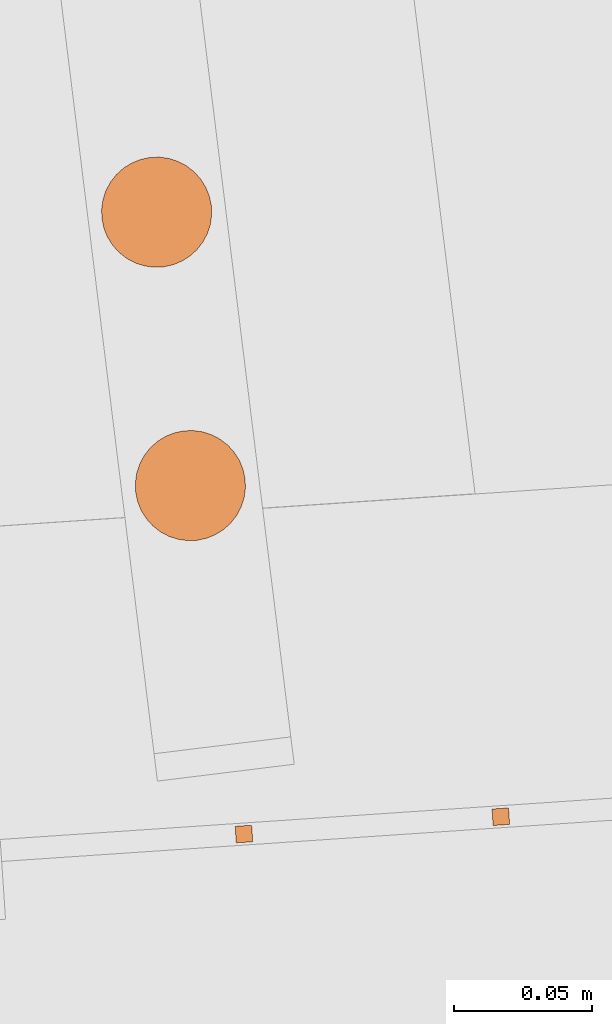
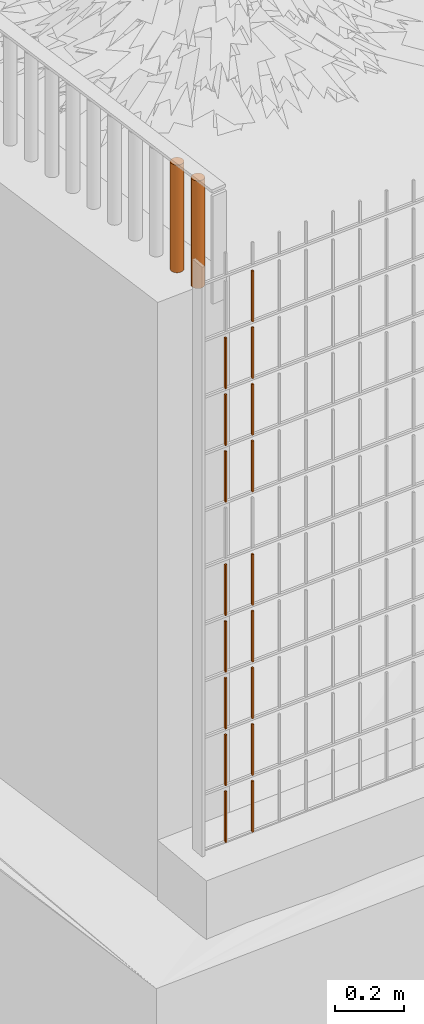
# One storey, part 52 of 1809: 19 proxies, 2 elements without a shape of their own.
"""IFC2X3 building model written with IfcOpenShell, lengths in millimetres."""

from ifc_helpers import new_model, entity, si_unit, converted_unit, derived_unit, money_unit, direction, frame, origin_with_axes, place, context, subcontext, project, spatial, faceted_brep, source, transform, mapped, material, type_object, element, aggregate, save


model = new_model("IFC2X3")

# Units and contexts
model_context = context("Model", 3, precision=0.01, world=origin_with_axes(), true_north=direction((0.0, 1.0)))
body_context = subcontext(model_context, "Body", "Model", "MODEL_VIEW")
ifc_project = project(units=[si_unit("LENGTHUNIT", "METRE", prefix="MILLI"), si_unit("AREAUNIT", "SQUARE_METRE"), si_unit("VOLUMEUNIT", "CUBIC_METRE"), converted_unit("PLANEANGLEUNIT", "DEGREE", entity("IfcPlaneAngleMeasure", 0.0174532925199), si_unit("PLANEANGLEUNIT", "RADIAN"), dimensions=[0, 0, 0, 0, 0, 0, 0]), si_unit("SOLIDANGLEUNIT", "STERADIAN"), money_unit("EUR"), converted_unit("TIMEUNIT", "Year", entity("IfcTimeMeasure", 31556926.0), si_unit("TIMEUNIT", "SECOND"), dimensions=[0, 0, 1, 0, 0, 0, 0]), si_unit("MASSUNIT", "GRAM", prefix="KILO"), si_unit("THERMODYNAMICTEMPERATUREUNIT", "DEGREE_CELSIUS"), si_unit("LUMINOUSINTENSITYUNIT", "LUMEN"), si_unit("ENERGYUNIT", "JOULE", prefix="MEGA"), derived_unit("THERMALCONDUCTANCEUNIT", [(si_unit("POWERUNIT", "WATT"), 1), (si_unit("LENGTHUNIT", "METRE"), -1), (si_unit("THERMODYNAMICTEMPERATUREUNIT", "KELVIN"), -1)]), derived_unit("SPECIFICHEATCAPACITYUNIT", [(si_unit("ENERGYUNIT", "JOULE"), 1), (si_unit("MASSUNIT", "GRAM", prefix="KILO"), -1), (si_unit("THERMODYNAMICTEMPERATUREUNIT", "KELVIN"), -1)]), derived_unit("MASSDENSITYUNIT", [(si_unit("MASSUNIT", "GRAM", prefix="KILO"), 1), (si_unit("VOLUMEUNIT", "CUBIC_METRE"), -1)])], contexts=[model_context])

# Site, building, storey
site_placement = place(None, origin_with_axes())
site = spatial("IfcSite", under=ifc_project, at=site_placement, Name="Politse- ja Piirivalveameti ning Päästeameti ühishoone", CompositionType="ELEMENT")
building_placement = place(site_placement, origin_with_axes())
building = spatial("IfcBuilding", under=site, at=building_placement, Name="Politse- ja Piirivalveameti ning Päästeameti ühishoone", CompositionType="ELEMENT")
storey_placement = place(building_placement, origin_with_axes())
storey = spatial("IfcBuildingStorey", under=building, at=storey_placement, Name="Esimene korrus", CompositionType="ELEMENT", Elevation=0.0)

# Proxies
building_element_proxy_type_1 = type_object("IfcBuildingElementProxyType", Name="Railing Type", PredefinedType="NOTDEFINED")
proxy_1_placement = place(storey_placement, frame((89252.001212, -29183.4766571, 203.661247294), z_axis=(0.0, 0.0, 1.0), x_axis=(1.0, 0.0, 0.0)))
proxy_1 = element("IfcBuildingElementProxy", 1, at=proxy_1_placement, inside=storey, type_object=building_element_proxy_type_1, Name="PIIRDEAED")
ifc_material_1 = material(Name="ET-03_Raud")
building_element_proxy_type_2 = type_object("IfcBuildingElementProxyType", Name="IfcBuildingElementProxy", PredefinedType="NOTDEFINED")
shared_shape_1 = source(origin_with_axes(), body_context, "Body", "Brep", [
    faceted_brep([(3.0, 3.0, -0.000752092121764), (-3.0, 3.0, -0.000752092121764), (-3.0, 3.0, 179.99926046), (3.0, 3.0, 179.99926046), (3.0, -3.0, 0.000752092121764), (-3.0, -3.0, 0.000752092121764), (-3.0, -3.0, 180.000764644), (3.0, -3.0, 180.000764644)], [[[0, 1, 2, 3]], [[0, 4, 5, 1]], [[1, 5, 6, 2]], [[3, 2, 6, 7]], [[4, 0, 3, 7]], [[5, 4, 7, 6]]]),
])
proxy_2_placement = place(proxy_1_placement, frame((-108294.372437, -24612.6509315, 1200.02340739), z_axis=(0.0, 0.0, 1.0), x_axis=(1.0, 0.0, 0.0)))
proxy_2 = element("IfcBuildingElementProxy", 2, at=proxy_2_placement, type_object=building_element_proxy_type_2, material=ifc_material_1, Name="BALUSTER - 001", context=body_context, shape_type="MappedRepresentation", body=[
    mapped(shared_shape_1, transform((0.0, 0.0, 0.0), x_axis=(-0.0673926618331, 0.997726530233, 0.0), y_axis=(-0.997726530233, -0.0673926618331, 0.0), z_axis=(0.0, 0.0, 1.0))),
])
shared_shape_2 = source(origin_with_axes(), body_context, "Body", "Brep", [
    faceted_brep([(3.0, 3.0, -0.000752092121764), (-3.0, 3.0, -0.000752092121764), (-3.0, 3.0, 179.99926046), (3.0, 3.0, 179.99926046), (3.0, -3.0, 0.000752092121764), (-3.0, -3.0, 0.000752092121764), (-3.0, -3.0, 180.000764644), (3.0, -3.0, 180.000764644)], [[[0, 1, 2, 3]], [[0, 4, 5, 1]], [[1, 5, 6, 2]], [[3, 2, 6, 7]], [[4, 0, 3, 7]], [[5, 4, 7, 6]]]),
])
proxy_3_placement = place(proxy_1_placement, frame((-108201.165633, -24606.3551637, 200.046827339), z_axis=(0.0, 0.0, 1.0), x_axis=(1.0, 0.0, 0.0)))
proxy_3 = element("IfcBuildingElementProxy", 3, at=proxy_3_placement, type_object=building_element_proxy_type_2, material=ifc_material_1, Name="BALUSTER - 001", context=body_context, shape_type="MappedRepresentation", body=[
    mapped(shared_shape_2, transform((0.0, 0.0, 0.0), x_axis=(-0.0673926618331, 0.997726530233, 0.0), y_axis=(-0.997726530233, -0.0673926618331, 0.0), z_axis=(0.0, 0.0, 1.0))),
])
shared_shape_3 = source(origin_with_axes(), body_context, "Body", "Brep", [
    faceted_brep([(3.0, 3.0, -0.000752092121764), (-3.0, 3.0, -0.000752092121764), (-3.0, 3.0, 179.99926046), (3.0, 3.0, 179.99926046), (3.0, -3.0, 0.000752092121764), (-3.0, -3.0, 0.000752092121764), (-3.0, -3.0, 180.000764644), (3.0, -3.0, 180.000764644)], [[[0, 1, 2, 3]], [[0, 4, 5, 1]], [[1, 5, 6, 2]], [[3, 2, 6, 7]], [[4, 0, 3, 7]], [[5, 4, 7, 6]]]),
])
proxy_4_placement = place(proxy_1_placement, frame((-108294.372437, -24612.6509315, 400.023407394), z_axis=(0.0, 0.0, 1.0), x_axis=(1.0, 0.0, 0.0)))
proxy_4 = element("IfcBuildingElementProxy", 4, at=proxy_4_placement, type_object=building_element_proxy_type_2, material=ifc_material_1, Name="BALUSTER - 001", context=body_context, shape_type="MappedRepresentation", body=[
    mapped(shared_shape_3, transform((0.0, 0.0, 0.0), x_axis=(-0.0673926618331, 0.997726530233, 0.0), y_axis=(-0.997726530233, -0.0673926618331, 0.0), z_axis=(0.0, 0.0, 1.0))),
])
shared_shape_4 = source(origin_with_axes(), body_context, "Body", "Brep", [
    faceted_brep([(3.0, 3.0, -0.000752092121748), (-3.0, 3.0, -0.00075209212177), (-3.0, 3.0, 179.99926046), (3.0, 3.0, 179.99926046), (3.0, -3.0, 0.00075209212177), (-3.0, -3.0, 0.000752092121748), (-3.0, -3.0, 180.000764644), (3.0, -3.0, 180.000764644)], [[[0, 1, 2, 3]], [[0, 4, 5, 1]], [[1, 5, 6, 2]], [[3, 2, 6, 7]], [[4, 0, 3, 7]], [[5, 4, 7, 6]]]),
])
proxy_5_placement = place(proxy_1_placement, frame((-108201.165633, -24606.3551637, 600.046827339), z_axis=(0.0, 0.0, 1.0), x_axis=(1.0, 0.0, 0.0)))
proxy_5 = element("IfcBuildingElementProxy", 5, at=proxy_5_placement, type_object=building_element_proxy_type_2, material=ifc_material_1, Name="BALUSTER - 001", context=body_context, shape_type="MappedRepresentation", body=[
    mapped(shared_shape_4, transform((0.0, 0.0, 0.0), x_axis=(-0.0673926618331, 0.997726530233, 0.0), y_axis=(-0.997726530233, -0.0673926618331, 0.0), z_axis=(0.0, 0.0, 1.0))),
])
proxy_6_placement = place(proxy_1_placement, frame((-108294.372437, -24612.6509315, 600.023407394), z_axis=(0.0, 0.0, 1.0), x_axis=(1.0, 0.0, 0.0)))
proxy_6 = element("IfcBuildingElementProxy", 6, at=proxy_6_placement, type_object=building_element_proxy_type_2, material=ifc_material_1, Name="BALUSTER - 001", context=body_context, shape_type="MappedRepresentation", body=[
    mapped(shared_shape_4, transform((0.0, 0.0, 0.0), x_axis=(-0.0673926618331, 0.997726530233, 0.0), y_axis=(-0.997726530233, -0.0673926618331, 0.0), z_axis=(0.0, 0.0, 1.0))),
])
shared_shape_5 = source(origin_with_axes(), body_context, "Body", "Brep", [
    faceted_brep([(3.0, 3.0, -0.000752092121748), (-3.0, 3.0, -0.00075209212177), (-3.0, 3.0, 179.99926046), (3.0, 3.0, 179.99926046), (3.0, -3.0, 0.00075209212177), (-3.0, -3.0, 0.000752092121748), (-3.0, -3.0, 180.000764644), (3.0, -3.0, 180.000764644)], [[[0, 1, 2, 3]], [[0, 4, 5, 1]], [[1, 5, 6, 2]], [[3, 2, 6, 7]], [[4, 0, 3, 7]], [[5, 4, 7, 6]]]),
])
proxy_7_placement = place(proxy_1_placement, frame((-108201.165633, -24606.3551637, 800.046827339), z_axis=(0.0, 0.0, 1.0), x_axis=(1.0, 0.0, 0.0)))
proxy_7 = element("IfcBuildingElementProxy", 7, at=proxy_7_placement, type_object=building_element_proxy_type_2, material=ifc_material_1, Name="BALUSTER - 001", context=body_context, shape_type="MappedRepresentation", body=[
    mapped(shared_shape_5, transform((0.0, 0.0, 0.0), x_axis=(-0.0673926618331, 0.997726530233, 0.0), y_axis=(-0.997726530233, -0.0673926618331, 0.0), z_axis=(0.0, 0.0, 1.0))),
])
proxy_8_placement = place(proxy_1_placement, frame((-108201.165633, -24606.3551637, 1800.04682734), z_axis=(0.0, 0.0, 1.0), x_axis=(1.0, 0.0, 0.0)))
proxy_8 = element("IfcBuildingElementProxy", 8, at=proxy_8_placement, type_object=building_element_proxy_type_2, material=ifc_material_1, Name="BALUSTER - 001", context=body_context, shape_type="MappedRepresentation", body=[
    mapped(shared_shape_5, transform((0.0, 0.0, 0.0), x_axis=(-0.0673926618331, 0.997726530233, 0.0), y_axis=(-0.997726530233, -0.0673926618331, 0.0), z_axis=(0.0, 0.0, 1.0))),
])
shared_shape_6 = source(origin_with_axes(), body_context, "Body", "Brep", [
    faceted_brep([(3.0, 3.0, -0.000752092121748), (-3.0, 3.0, -0.00075209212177), (-3.0, 3.0, 179.99926046), (3.0, 3.0, 179.99926046), (3.0, -3.0, 0.00075209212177), (-3.0, -3.0, 0.000752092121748), (-3.0, -3.0, 180.000764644), (3.0, -3.0, 180.000764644)], [[[0, 1, 2, 3]], [[0, 4, 5, 1]], [[1, 5, 6, 2]], [[3, 2, 6, 7]], [[4, 0, 3, 7]], [[5, 4, 7, 6]]]),
])
proxy_9_placement = place(proxy_1_placement, frame((-108294.372437, -24612.6509315, 800.023407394), z_axis=(0.0, 0.0, 1.0), x_axis=(1.0, 0.0, 0.0)))
proxy_9 = element("IfcBuildingElementProxy", 9, at=proxy_9_placement, type_object=building_element_proxy_type_2, material=ifc_material_1, Name="BALUSTER - 001", context=body_context, shape_type="MappedRepresentation", body=[
    mapped(shared_shape_6, transform((0.0, 0.0, 0.0), x_axis=(-0.0673926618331, 0.997726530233, 0.0), y_axis=(-0.997726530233, -0.0673926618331, 0.0), z_axis=(0.0, 0.0, 1.0))),
])
shared_shape_7 = source(origin_with_axes(), body_context, "Body", "Brep", [
    faceted_brep([(3.0, 3.0, -0.000752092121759), (-3.0, 3.0, -0.000752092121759), (-3.0, 3.0, 179.99926046), (3.0, 3.0, 179.99926046), (3.0, -3.0, 0.000752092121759), (-3.0, -3.0, 0.000752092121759), (-3.0, -3.0, 180.000764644), (3.0, -3.0, 180.000764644)], [[[0, 1, 2, 3]], [[0, 4, 5, 1]], [[1, 5, 6, 2]], [[3, 2, 6, 7]], [[4, 0, 3, 7]], [[5, 4, 7, 6]]]),
])
proxy_10_placement = place(proxy_1_placement, frame((-108201.165633, -24606.3551637, 1200.04682734), z_axis=(0.0, 0.0, 1.0), x_axis=(1.0, 0.0, 0.0)))
proxy_10 = element("IfcBuildingElementProxy", 10, at=proxy_10_placement, type_object=building_element_proxy_type_2, material=ifc_material_1, Name="BALUSTER - 001", context=body_context, shape_type="MappedRepresentation", body=[
    mapped(shared_shape_7, transform((0.0, 0.0, 0.0), x_axis=(-0.0673926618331, 0.997726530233, 0.0), y_axis=(-0.997726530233, -0.0673926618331, 0.0), z_axis=(0.0, 0.0, 1.0))),
])
shared_shape_8 = source(origin_with_axes(), body_context, "Body", "Brep", [
    faceted_brep([(3.0, 3.0, -0.000752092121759), (-3.0, 3.0, -0.000752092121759), (-3.0, 3.0, 179.99926046), (3.0, 3.0, 179.99926046), (3.0, -3.0, 0.000752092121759), (-3.0, -3.0, 0.000752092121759), (-3.0, -3.0, 180.000764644), (3.0, -3.0, 180.000764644)], [[[0, 1, 2, 3]], [[0, 4, 5, 1]], [[1, 5, 6, 2]], [[3, 2, 6, 7]], [[4, 0, 3, 7]], [[5, 4, 7, 6]]]),
])
proxy_11_placement = place(proxy_1_placement, frame((-108201.165633, -24606.3551637, 1400.04682734), z_axis=(0.0, 0.0, 1.0), x_axis=(1.0, 0.0, 0.0)))
proxy_11 = element("IfcBuildingElementProxy", 11, at=proxy_11_placement, type_object=building_element_proxy_type_2, material=ifc_material_1, Name="BALUSTER - 001", context=body_context, shape_type="MappedRepresentation", body=[
    mapped(shared_shape_8, transform((0.0, 0.0, 0.0), x_axis=(-0.0673926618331, 0.997726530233, 0.0), y_axis=(-0.997726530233, -0.0673926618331, 0.0), z_axis=(0.0, 0.0, 1.0))),
])
shared_shape_9 = source(origin_with_axes(), body_context, "Body", "Brep", [
    faceted_brep([(3.0, 3.0, -0.000752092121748), (-3.0, 3.0, -0.00075209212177), (-3.0, 3.0, 179.99926046), (3.0, 3.0, 179.99926046), (3.0, -3.0, 0.00075209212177), (-3.0, -3.0, 0.000752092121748), (-3.0, -3.0, 180.000764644), (3.0, -3.0, 180.000764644)], [[[0, 1, 2, 3]], [[0, 4, 5, 1]], [[1, 5, 6, 2]], [[3, 2, 6, 7]], [[4, 0, 3, 7]], [[5, 4, 7, 6]]]),
])
proxy_12_placement = place(proxy_1_placement, frame((-108201.165633, -24606.3551637, 1600.04682734), z_axis=(0.0, 0.0, 1.0), x_axis=(1.0, 0.0, 0.0)))
proxy_12 = element("IfcBuildingElementProxy", 12, at=proxy_12_placement, type_object=building_element_proxy_type_2, material=ifc_material_1, Name="BALUSTER - 001", context=body_context, shape_type="MappedRepresentation", body=[
    mapped(shared_shape_9, transform((0.0, 0.0, 0.0), x_axis=(-0.0673926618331, 0.997726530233, 0.0), y_axis=(-0.997726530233, -0.0673926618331, 0.0), z_axis=(0.0, 0.0, 1.0))),
])
shared_shape_10 = source(origin_with_axes(), body_context, "Body", "Brep", [
    faceted_brep([(3.0, 3.0, -0.000752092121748), (-3.0, 3.0, -0.00075209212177), (-3.0, 3.0, 179.99926046), (3.0, 3.0, 179.99926046), (3.0, -3.0, 0.00075209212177), (-3.0, -3.0, 0.000752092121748), (-3.0, -3.0, 180.000764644), (3.0, -3.0, 180.000764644)], [[[0, 1, 2, 3]], [[0, 4, 5, 1]], [[1, 5, 6, 2]], [[3, 2, 6, 7]], [[4, 0, 3, 7]], [[5, 4, 7, 6]]]),
])
proxy_13_placement = place(proxy_1_placement, frame((-108294.372437, -24612.6509315, 1400.02340739), z_axis=(0.0, 0.0, 1.0), x_axis=(1.0, 0.0, 0.0)))
proxy_13 = element("IfcBuildingElementProxy", 13, at=proxy_13_placement, type_object=building_element_proxy_type_2, material=ifc_material_1, Name="BALUSTER - 001", context=body_context, shape_type="MappedRepresentation", body=[
    mapped(shared_shape_10, transform((0.0, 0.0, 0.0), x_axis=(-0.0673926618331, 0.997726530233, 0.0), y_axis=(-0.997726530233, -0.0673926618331, 0.0), z_axis=(0.0, 0.0, 1.0))),
])
shared_shape_11 = source(origin_with_axes(), body_context, "Body", "Brep", [
    faceted_brep([(3.0, 3.0, -0.000752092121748), (-3.0, 3.0, -0.00075209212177), (-3.0, 3.0, 179.99926046), (3.0, 3.0, 179.99926046), (3.0, -3.0, 0.00075209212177), (-3.0, -3.0, 0.000752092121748), (-3.0, -3.0, 180.000764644), (3.0, -3.0, 180.000764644)], [[[0, 1, 2, 3]], [[0, 4, 5, 1]], [[1, 5, 6, 2]], [[3, 2, 6, 7]], [[4, 0, 3, 7]], [[5, 4, 7, 6]]]),
])
proxy_14_placement = place(proxy_1_placement, frame((-108294.372437, -24612.6509315, 0.0234073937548), z_axis=(0.0, 0.0, 1.0), x_axis=(1.0, 0.0, 0.0)))
proxy_14 = element("IfcBuildingElementProxy", 14, at=proxy_14_placement, type_object=building_element_proxy_type_2, material=ifc_material_1, Name="BALUSTER - 001", context=body_context, shape_type="MappedRepresentation", body=[
    mapped(shared_shape_11, transform((0.0, 0.0, 0.0), x_axis=(-0.0673926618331, 0.997726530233, 0.0), y_axis=(-0.997726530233, -0.0673926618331, 0.0), z_axis=(0.0, 0.0, 1.0))),
])
shared_shape_12 = source(origin_with_axes(), body_context, "Body", "Brep", [
    faceted_brep([(3.0, 3.0, -0.000752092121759), (-3.0, 3.0, -0.000752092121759), (-3.0, 3.0, 179.99926046), (3.0, 3.0, 179.99926046), (3.0, -3.0, 0.000752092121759), (-3.0, -3.0, 0.000752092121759), (-3.0, -3.0, 180.000764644), (3.0, -3.0, 180.000764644)], [[[0, 1, 2, 3]], [[0, 4, 5, 1]], [[1, 5, 6, 2]], [[3, 2, 6, 7]], [[4, 0, 3, 7]], [[5, 4, 7, 6]]]),
])
proxy_15_placement = place(proxy_1_placement, frame((-108201.165633, -24606.3551637, 400.046827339), z_axis=(0.0, 0.0, 1.0), x_axis=(1.0, 0.0, 0.0)))
proxy_15 = element("IfcBuildingElementProxy", 15, at=proxy_15_placement, type_object=building_element_proxy_type_2, material=ifc_material_1, Name="BALUSTER - 001", context=body_context, shape_type="MappedRepresentation", body=[
    mapped(shared_shape_12, transform((0.0, 0.0, 0.0), x_axis=(-0.0673926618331, 0.997726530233, 0.0), y_axis=(-0.997726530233, -0.0673926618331, 0.0), z_axis=(0.0, 0.0, 1.0))),
])
shared_shape_13 = source(origin_with_axes(), body_context, "Body", "Brep", [
    faceted_brep([(3.0, 3.0, -0.000752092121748), (-3.0, 3.0, -0.00075209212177), (-3.0, 3.0, 179.99926046), (3.0, 3.0, 179.99926046), (3.0, -3.0, 0.00075209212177), (-3.0, -3.0, 0.000752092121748), (-3.0, -3.0, 180.000764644), (3.0, -3.0, 180.000764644)], [[[0, 1, 2, 3]], [[0, 4, 5, 1]], [[1, 5, 6, 2]], [[3, 2, 6, 7]], [[4, 0, 3, 7]], [[5, 4, 7, 6]]]),
])
proxy_16_placement = place(proxy_1_placement, frame((-108294.372437, -24612.6509315, 200.023407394), z_axis=(0.0, 0.0, 1.0), x_axis=(1.0, 0.0, 0.0)))
proxy_16 = element("IfcBuildingElementProxy", 16, at=proxy_16_placement, type_object=building_element_proxy_type_2, material=ifc_material_1, Name="BALUSTER - 001", context=body_context, shape_type="MappedRepresentation", body=[
    mapped(shared_shape_13, transform((0.0, 0.0, 0.0), x_axis=(-0.0673926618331, 0.997726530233, 0.0), y_axis=(-0.997726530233, -0.0673926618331, 0.0), z_axis=(0.0, 0.0, 1.0))),
])
shared_shape_14 = source(origin_with_axes(), body_context, "Body", "Brep", [
    faceted_brep([(3.0, 3.0, -0.000752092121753), (-3.0, 3.0, -0.000752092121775), (-3.0, 3.0, 179.99926046), (3.0, 3.0, 179.99926046), (3.0, -3.0, 0.000752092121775), (-3.0, -3.0, 0.000752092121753), (-3.0, -3.0, 180.000764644), (3.0, -3.0, 180.000764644)], [[[0, 1, 2, 3]], [[0, 4, 5, 1]], [[1, 5, 6, 2]], [[3, 2, 6, 7]], [[4, 0, 3, 7]], [[5, 4, 7, 6]]]),
])
proxy_17_placement = place(proxy_1_placement, frame((-108294.372437, -24612.6509315, 1600.02340739), z_axis=(0.0, 0.0, 1.0), x_axis=(1.0, 0.0, 0.0)))
proxy_17 = element("IfcBuildingElementProxy", 17, at=proxy_17_placement, type_object=building_element_proxy_type_2, material=ifc_material_1, Name="BALUSTER - 001", context=body_context, shape_type="MappedRepresentation", body=[
    mapped(shared_shape_14, transform((0.0, 0.0, 0.0), x_axis=(-0.0673926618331, 0.997726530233, 0.0), y_axis=(-0.997726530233, -0.0673926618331, 0.0), z_axis=(0.0, 0.0, 1.0))),
])
shared_shape_15 = source(origin_with_axes(), body_context, "Body", "Brep", [
    faceted_brep([(3.0, 3.0, -0.000752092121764), (-3.0, 3.0, -0.000752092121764), (-3.0, 3.0, 179.99926046), (3.0, 3.0, 179.99926046), (3.0, -3.0, 0.000752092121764), (-3.0, -3.0, 0.000752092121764), (-3.0, -3.0, 180.000764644), (3.0, -3.0, 180.000764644)], [[[0, 1, 2, 3]], [[0, 4, 5, 1]], [[1, 5, 6, 2]], [[3, 2, 6, 7]], [[4, 0, 3, 7]], [[5, 4, 7, 6]]]),
])
proxy_18_placement = place(proxy_1_placement, frame((-108201.165633, -24606.3551637, 0.0468273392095), z_axis=(0.0, 0.0, 1.0), x_axis=(1.0, 0.0, 0.0)))
proxy_18 = element("IfcBuildingElementProxy", 18, at=proxy_18_placement, type_object=building_element_proxy_type_2, material=ifc_material_1, Name="BALUSTER - 001", context=body_context, shape_type="MappedRepresentation", body=[
    mapped(shared_shape_15, transform((0.0, 0.0, 0.0), x_axis=(-0.0673926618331, 0.997726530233, 0.0), y_axis=(-0.997726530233, -0.0673926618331, 0.0), z_axis=(0.0, 0.0, 1.0))),
])
aggregate(proxy_1, [proxy_18, proxy_14, proxy_3, proxy_16, proxy_15, proxy_4, proxy_5, proxy_6, proxy_7, proxy_9, proxy_10, proxy_2, proxy_11, proxy_13, proxy_12, proxy_17, proxy_8])

proxy_19_placement = place(storey_placement, frame((-18956.5522504, -53688.4757966, 2100.0), z_axis=(0.0, 0.0, 1.0), x_axis=(1.0, 0.0, 0.0)))
proxy_19 = element("IfcBuildingElementProxy", 19, at=proxy_19_placement, inside=storey, type_object=building_element_proxy_type_1, Name="PIIRDEAED")
ifc_material_2 = material(Name="ET-06_Teras - Konstruktsioon")
shared_shape_16 = source(origin_with_axes(), body_context, "Body", "Brep", [
    faceted_brep([(0.0, -20.0, 0.0), (3.47296355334, -19.6961550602, 0.0), (3.47296355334, -19.6961550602, 380.000012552), (0.0, -20.0, 380.000012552), (-3.47296355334, -19.6961550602, 0.0), (-6.84040286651, -18.7938524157, 0.0), (-10.0, -17.3205080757, 0.0), (-12.8557521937, -15.3208888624, 0.0), (-15.3208888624, -12.8557521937, 0.0), (-17.3205080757, -10.0, 0.0), (-18.7938524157, -6.84040286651, 0.0), (-19.6961550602, -3.47296355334, 0.0), (-20.0, 0.0, 0.0), (-19.6961550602, 3.47296355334, 0.0), (-18.7938524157, 6.84040286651, 0.0), (-17.3205080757, 10.0, 0.0), (-15.3208888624, 12.8557521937, 0.0), (-12.8557521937, 15.3208888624, 0.0), (-10.0, 17.3205080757, 0.0), (-6.84040286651, 18.7938524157, 0.0), (-3.47296355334, 19.6961550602, 0.0), (0.0, 20.0, 0.0), (3.47296355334, 19.6961550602, 0.0), (6.84040286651, 18.7938524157, 0.0), (10.0, 17.3205080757, 0.0), (12.8557521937, 15.3208888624, 0.0), (15.3208888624, 12.8557521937, 0.0), (17.3205080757, 10.0, 0.0), (18.7938524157, 6.84040286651, 0.0), (19.6961550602, 3.47296355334, 0.0), (20.0, 0.0, 0.0), (19.6961550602, -3.47296355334, 0.0), (18.7938524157, -6.84040286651, 0.0), (17.3205080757, -10.0, 0.0), (15.3208888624, -12.8557521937, 0.0), (12.8557521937, -15.3208888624, 0.0), (10.0, -17.3205080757, 0.0), (6.84040286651, -18.7938524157, 0.0), (6.84040286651, -18.7938524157, 380.000012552), (10.0, -17.3205080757, 380.000012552), (12.8557521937, -15.3208888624, 380.000012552), (15.3208888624, -12.8557521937, 380.000012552), (17.3205080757, -10.0, 380.000012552), (18.7938524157, -6.84040286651, 380.000012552), (19.6961550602, -3.47296355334, 380.000012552), (20.0, 0.0, 380.000012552), (19.6961550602, 3.47296355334, 380.000012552), (18.7938524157, 6.84040286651, 380.000012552), (17.3205080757, 10.0, 380.000012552), (15.3208888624, 12.8557521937, 380.000012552), (12.8557521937, 15.3208888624, 380.000012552), (10.0, 17.3205080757, 380.000012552), (6.84040286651, 18.7938524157, 380.000012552), (3.47296355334, 19.6961550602, 380.000012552), (0.0, 20.0, 380.000012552), (-3.47296355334, 19.6961550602, 380.000012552), (-6.84040286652, 18.7938524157, 380.000012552), (-10.0, 17.3205080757, 380.000012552), (-12.8557521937, 15.3208888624, 380.000012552), (-15.3208888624, 12.8557521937, 380.000012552), (-17.3205080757, 10.0, 380.000012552), (-18.7938524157, 6.84040286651, 380.000012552), (-19.6961550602, 3.47296355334, 380.000012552), (-20.0, 0.0, 380.000012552), (-19.6961550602, -3.47296355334, 380.000012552), (-18.7938524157, -6.84040286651, 380.000012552), (-17.3205080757, -10.0, 380.000012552), (-15.3208888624, -12.8557521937, 380.000012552), (-12.8557521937, -15.3208888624, 380.000012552), (-10.0, -17.3205080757, 380.000012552), (-6.84040286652, -18.7938524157, 380.000012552), (-3.47296355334, -19.6961550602, 380.000012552)], [[[0, 1, 2, 3]], [[0, 4, 5, 6, 7, 8, 9, 10, 11, 12, 13, 14, 15, 16, 17, 18, 19, 20, 21, 22, 23, 24, 25, 26, 27, 28, 29, 30, 31, 32, 33, 34, 35, 36, 37, 1]], [[1, 37, 38, 2]], [[3, 2, 38, 39, 40, 41, 42, 43, 44, 45, 46, 47, 48, 49, 50, 51, 52, 53, 54, 55, 56, 57, 58, 59, 60, 61, 62, 63, 64, 65, 66, 67, 68, 69, 70, 71]], [[4, 0, 3, 71]], [[5, 4, 71, 70]], [[6, 5, 70, 69]], [[7, 6, 69, 68]], [[8, 7, 68, 67]], [[9, 8, 67, 66]], [[10, 9, 66, 65]], [[11, 10, 65, 64]], [[12, 11, 64, 63]], [[13, 12, 63, 62]], [[14, 13, 62, 61]], [[15, 14, 61, 60]], [[16, 15, 60, 59]], [[17, 16, 59, 58]], [[18, 17, 58, 57]], [[19, 18, 57, 56]], [[20, 19, 56, 55]], [[21, 20, 55, 54]], [[22, 21, 54, 53]], [[23, 22, 53, 52]], [[24, 23, 52, 51]], [[25, 24, 51, 50]], [[26, 25, 50, 49]], [[27, 26, 49, 48]], [[28, 27, 48, 47]], [[29, 28, 47, 46]], [[30, 29, 46, 45]], [[31, 30, 45, 44]], [[32, 31, 44, 43]], [[33, 32, 43, 42]], [[34, 33, 42, 41]], [[35, 34, 41, 40]], [[36, 35, 40, 39]], [[37, 36, 39, 38]]]),
])
proxy_20_placement = place(proxy_19_placement, frame((-105.270547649, 18.8157765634, -1.25517001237e-05), z_axis=(0.0, 0.0, 1.0), x_axis=(1.0, 0.0, 0.0)))
proxy_20 = element("IfcBuildingElementProxy", 20, at=proxy_20_placement, type_object=building_element_proxy_type_2, material=ifc_material_2, Name="BALUSTER - 001", context=body_context, shape_type="MappedRepresentation", body=[
    mapped(shared_shape_16, transform((0.0, 0.0, 0.0), x_axis=(0.992468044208, 0.122503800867, 0.0), y_axis=(-0.122503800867, 0.992468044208, 0.0), z_axis=(0.0, 0.0, 1.0))),
])
shared_shape_17 = source(origin_with_axes(), body_context, "Body", "Brep", [
    faceted_brep([(0.0, -20.0, 0.0), (3.47296355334, -19.6961550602, 0.0), (3.47296355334, -19.6961550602, 380.000012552), (0.0, -20.0, 380.000012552), (-3.47296355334, -19.6961550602, 0.0), (-6.84040286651, -18.7938524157, 0.0), (-10.0, -17.3205080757, 0.0), (-12.8557521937, -15.3208888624, 0.0), (-15.3208888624, -12.8557521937, 0.0), (-17.3205080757, -10.0, 0.0), (-18.7938524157, -6.84040286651, 0.0), (-19.6961550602, -3.47296355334, 0.0), (-20.0, 0.0, 0.0), (-19.6961550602, 3.47296355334, 0.0), (-18.7938524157, 6.84040286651, 0.0), (-17.3205080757, 10.0, 0.0), (-15.3208888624, 12.8557521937, 0.0), (-12.8557521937, 15.3208888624, 0.0), (-10.0, 17.3205080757, 0.0), (-6.84040286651, 18.7938524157, 0.0), (-3.47296355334, 19.6961550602, 0.0), (0.0, 20.0, 0.0), (3.47296355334, 19.6961550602, 0.0), (6.84040286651, 18.7938524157, 0.0), (10.0, 17.3205080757, 0.0), (12.8557521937, 15.3208888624, 0.0), (15.3208888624, 12.8557521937, 0.0), (17.3205080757, 10.0, 0.0), (18.7938524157, 6.84040286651, 0.0), (19.6961550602, 3.47296355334, 0.0), (20.0, 0.0, 0.0), (19.6961550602, -3.47296355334, 0.0), (18.7938524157, -6.84040286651, 0.0), (17.3205080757, -10.0, 0.0), (15.3208888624, -12.8557521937, 0.0), (12.8557521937, -15.3208888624, 0.0), (10.0, -17.3205080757, 0.0), (6.84040286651, -18.7938524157, 0.0), (6.84040286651, -18.7938524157, 380.000012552), (10.0, -17.3205080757, 380.000012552), (12.8557521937, -15.3208888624, 380.000012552), (15.3208888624, -12.8557521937, 380.000012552), (17.3205080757, -10.0, 380.000012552), (18.7938524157, -6.84040286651, 380.000012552), (19.6961550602, -3.47296355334, 380.000012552), (20.0, 0.0, 380.000012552), (19.6961550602, 3.47296355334, 380.000012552), (18.7938524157, 6.84040286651, 380.000012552), (17.3205080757, 10.0, 380.000012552), (15.3208888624, 12.8557521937, 380.000012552), (12.8557521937, 15.3208888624, 380.000012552), (10.0, 17.3205080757, 380.000012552), (6.84040286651, 18.7938524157, 380.000012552), (3.47296355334, 19.6961550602, 380.000012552), (0.0, 20.0, 380.000012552), (-3.47296355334, 19.6961550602, 380.000012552), (-6.84040286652, 18.7938524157, 380.000012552), (-10.0, 17.3205080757, 380.000012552), (-12.8557521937, 15.3208888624, 380.000012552), (-15.3208888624, 12.8557521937, 380.000012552), (-17.3205080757, 10.0, 380.000012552), (-18.7938524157, 6.84040286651, 380.000012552), (-19.6961550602, 3.47296355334, 380.000012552), (-20.0, 0.0, 380.000012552), (-19.6961550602, -3.47296355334, 380.000012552), (-18.7938524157, -6.84040286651, 380.000012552), (-17.3205080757, -10.0, 380.000012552), (-15.3208888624, -12.8557521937, 380.000012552), (-12.8557521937, -15.3208888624, 380.000012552), (-10.0, -17.3205080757, 380.000012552), (-6.84040286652, -18.7938524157, 380.000012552), (-3.47296355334, -19.6961550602, 380.000012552)], [[[0, 1, 2, 3]], [[0, 4, 5, 6, 7, 8, 9, 10, 11, 12, 13, 14, 15, 16, 17, 18, 19, 20, 21, 22, 23, 24, 25, 26, 27, 28, 29, 30, 31, 32, 33, 34, 35, 36, 37, 1]], [[1, 37, 38, 2]], [[3, 2, 38, 39, 40, 41, 42, 43, 44, 45, 46, 47, 48, 49, 50, 51, 52, 53, 54, 55, 56, 57, 58, 59, 60, 61, 62, 63, 64, 65, 66, 67, 68, 69, 70, 71]], [[4, 0, 3, 71]], [[5, 4, 71, 70]], [[6, 5, 70, 69]], [[7, 6, 69, 68]], [[8, 7, 68, 67]], [[9, 8, 67, 66]], [[10, 9, 66, 65]], [[11, 10, 65, 64]], [[12, 11, 64, 63]], [[13, 12, 63, 62]], [[14, 13, 62, 61]], [[15, 14, 61, 60]], [[16, 15, 60, 59]], [[17, 16, 59, 58]], [[18, 17, 58, 57]], [[19, 18, 57, 56]], [[20, 19, 56, 55]], [[21, 20, 55, 54]], [[22, 21, 54, 53]], [[23, 22, 53, 52]], [[24, 23, 52, 51]], [[25, 24, 51, 50]], [[26, 25, 50, 49]], [[27, 26, 49, 48]], [[28, 27, 48, 47]], [[29, 28, 47, 46]], [[30, 29, 46, 45]], [[31, 30, 45, 44]], [[32, 31, 44, 43]], [[33, 32, 43, 42]], [[34, 33, 42, 41]], [[35, 34, 41, 40]], [[36, 35, 40, 39]], [[37, 36, 39, 38]]]),
])
proxy_21_placement = place(proxy_19_placement, frame((-117.518252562, 118.040907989, -1.25517001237e-05), z_axis=(0.0, 0.0, 1.0), x_axis=(1.0, 0.0, 0.0)))
proxy_21 = element("IfcBuildingElementProxy", 21, at=proxy_21_placement, type_object=building_element_proxy_type_2, material=ifc_material_2, Name="BALUSTER - 001", context=body_context, shape_type="MappedRepresentation", body=[
    mapped(shared_shape_17, transform((0.0, 0.0, 0.0), x_axis=(0.992468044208, 0.122503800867, 0.0), y_axis=(-0.122503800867, 0.992468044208, 0.0), z_axis=(0.0, 0.0, 1.0))),
])
aggregate(proxy_19, [proxy_20, proxy_21])

save(model, "model.ifc")
